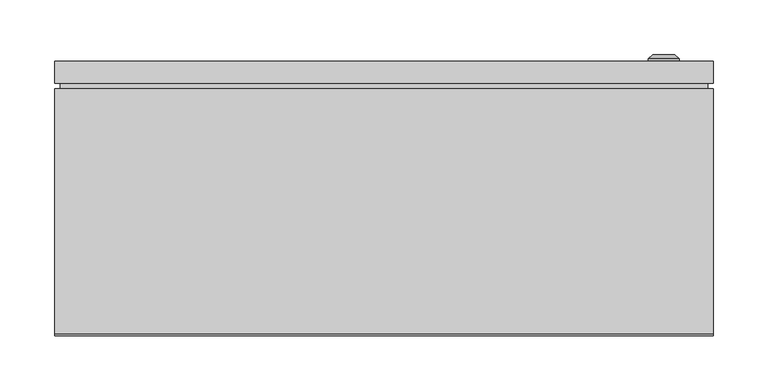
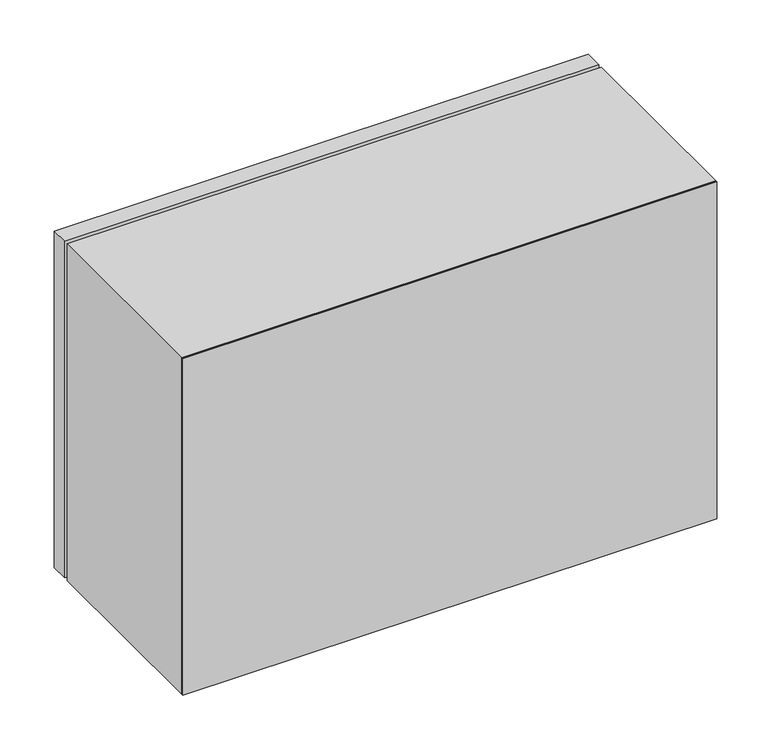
"""IFC4 building model written with IfcOpenShell, lengths in millimetres: proxy geometry, ЩМП_IP65 : ЩМП-4.6.2-0_400х600х250."""

from ifc_helpers import new_model, si_unit, frame, origin, origin_with_axes, place, context, project, spatial, polyline, circle_curve, outline, extrude, source, transform, mapped, element, save
from ifc_brep_helpers import plane_surface, cylinder_surface, revolved_surface, advanced_brep


def electrical_equipment_81dbc8a3(model_context):
    return source(origin(), model_context, "Body", "SolidModel", [
        extrude(outline(polyline([(295.0, 225.0), (-295.0, 225.0), (-295.0, 230.0), (295.0, 230.0), (295.0, 225.0)])), frame((0.0, 0.0, 5.0), z_axis=(0.0, 0.0, 1.0), x_axis=(1.0, 0.0, 0.0)), (0.0, 0.0, 1.0), 390.0),
        extrude(outline(polyline([(300.0, 230.0), (-300.0, 230.0), (-300.0, 250.0), (300.0, 250.0), (300.0, 230.0)])), origin_with_axes(), (0.0, 0.0, 1.0), 400.0),
        advanced_brep(
        [(240.669873, 250.0, 200.0), (269.330127, 250.0, 200.0), (255.0, 250.0, 200.0), (240.669873, 252.366592, 200.0), (269.330127, 252.366592, 200.0), (245.0, 256.0, 200.0), (265.0, 256.0, 200.0), (253.1080471, 256.0, 200.0), (256.8919529, 256.0, 200.0), (253.1080471, 254.9822294, 200.0), (256.8919529, 254.9822294, 200.0), (255.0, 254.9822294, 200.0)],
        [
            (0, 1, circle_curve(frame((255.0, 250.0, 200.0), z_axis=(0.0, -1.0, 0.0), x_axis=(1.0, 0.0, 0.0)), 14.330127)),
            (1, 2),
            (2, 0),
            (1, 0, circle_curve(frame((255.0, 250.0, 200.0), z_axis=(0.0, -1.0, 0.0), x_axis=(1.0, 0.0, 0.0)), 14.330127)),
            (3, 4, circle_curve(frame((255.0, 252.366592, 200.0), z_axis=(0.0, -1.0, 0.0), x_axis=(1.0, 0.0, 0.0)), 14.330127)),
            (4, 1),
            (0, 3),
            (4, 3, circle_curve(frame((255.0, 252.366592, 200.0), z_axis=(0.0, -1.0, 0.0), x_axis=(1.0, 0.0, 0.0)), 14.330127)),
            (5, 6, circle_curve(frame((255.0, 256.0, 200.0), z_axis=(0.0, -1.0, 0.0), x_axis=(1.0, 0.0, 0.0)), 10.0)),
            (6, 4),
            (3, 5),
            (6, 5, circle_curve(frame((255.0, 256.0, 200.0), z_axis=(0.0, -1.0, 0.0), x_axis=(1.0, 0.0, 0.0)), 10.0)),
            (7, 8, circle_curve(frame((255.0, 256.0, 200.0), z_axis=(0.0, -1.0, 0.0), x_axis=(1.0, 0.0, 0.0)), 1.8919529)),
            (8, 6),
            (5, 7),
            (8, 7, circle_curve(frame((255.0, 256.0, 200.0), z_axis=(0.0, -1.0, 0.0), x_axis=(1.0, 0.0, 0.0)), 1.8919529)),
            (9, 10, circle_curve(frame((255.0, 254.9822294, 200.0), z_axis=(0.0, -1.0, 0.0), x_axis=(1.0, 0.0, 0.0)), 1.8919529)),
            (10, 8),
            (7, 9),
            (10, 9, circle_curve(frame((255.0, 254.9822294, 200.0), z_axis=(0.0, -1.0, 0.0), x_axis=(1.0, 0.0, 0.0)), 1.8919529)),
            (11, 10),
            (9, 11),
        ],
        [
            plane_surface(frame((255.0, 250.0, 200.0), z_axis=(0.0, -1.0, 0.0), x_axis=(1.0, 0.0, 0.0))),
            cylinder_surface(frame((255.0, 263.1348851, 200.0), z_axis=(0.0, 1.0, 0.0), x_axis=(1.0, 0.0, 0.0)), 14.330127),
            revolved_surface(polyline([(269.330127, 252.366592, 200.0), (265.0, 256.0, 200.0)]), (255.0, 263.1348851, 200.0), (0.0, 1.0, 0.0)),
            plane_surface(frame((255.0, 256.0, 200.0), z_axis=(0.0, 1.0, 0.0), x_axis=(1.0, 0.0, 0.0))),
            revolved_surface(polyline([(256.8919529, 256.0, 200.0), (256.8919529, 254.9822294, 200.0)]), (255.0, 263.1348851, 200.0), (0.0, 1.0, 0.0)),
            plane_surface(frame((255.0, 254.9822294, 200.0), z_axis=(0.0, 1.0, 0.0), x_axis=(1.0, 0.0, 0.0))),
        ],
        [
            (0, [[1, 2, 3]]),
            (0, [[4, -3, -2]]),
            (1, [[5, 6, -1, 7]]),
            (1, [[8, -7, -4, -6]]),
            (2, [[9, 10, -5, 11]]),
            (2, [[12, -11, -8, -10]]),
            (3, [[13, 14, -9, 15]]),
            (3, [[16, -15, -12, -14]]),
            (4, [[17, 18, -13, 19]]),
            (4, [[20, -19, -16, -18]]),
            (5, [[21, -17, 22]]),
            (5, [[-22, -20, -21]]),
        ],
    ),
        extrude(outline(polyline([(400.0, -300.0033905), (0.0, -300.0033905), (0.0, 299.9966095), (400.0, 299.9966095), (400.0, -300.0033905)]), holes=[polyline([(365.0, -265.0033905), (365.0, 264.9966095), (35.0, 264.9966095), (35.0, -265.0033905), (365.0, -265.0033905)])]), frame((0.0, 2.0, 0.0), z_axis=(0.0, 1.0, 0.0), x_axis=(0.0, 0.0, 1.0)), (0.0, 0.0, 1.0), 223.0),
        extrude(outline(polyline([(300.0, 0.0), (-300.0, 0.0), (-300.0, 2.0), (300.0, 2.0), (300.0, 0.0)])), origin_with_axes(), (0.0, 0.0, 1.0), 400.0),
    ])


if __name__ == "__main__":
    model = new_model("IFC4")
    model_context = context("Model", 3, world=origin())
    ifc_project = project(units=[si_unit("LENGTHUNIT", "METRE", prefix="MILLI")], contexts=[model_context])
    site = spatial("IfcSite", under=ifc_project)
    building = spatial("IfcBuilding", under=site)
    placement = place(None, origin())
    electrical_equipment_shape = electrical_equipment_81dbc8a3(model_context)
    element("IfcBuildingElementProxy", 1, Name="ЩМП_IP65 : ЩМП-4.6.2-0_400х600х250", ObjectType="ЩМП_IP65 : ЩМП-4.6.2-0_400х600х250", at=placement, inside=building, context=model_context, shape_type="MappedRepresentation", body=[
        mapped(electrical_equipment_shape, transform((0.0, 0.0, 0.0), x_axis=(1.0, 0.0, 0.0), y_axis=(0.0, 1.0, 0.0), z_axis=(0.0, 0.0, 1.0))),
    ])
    save(model, "model.ifc")
